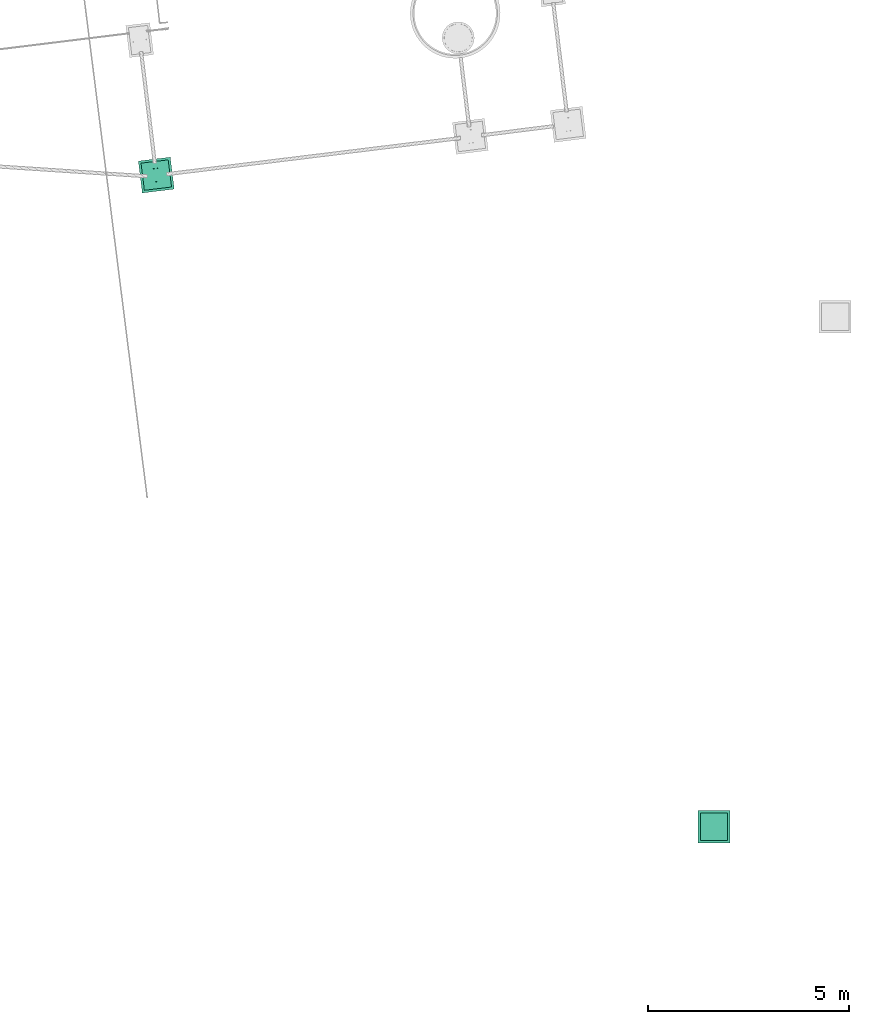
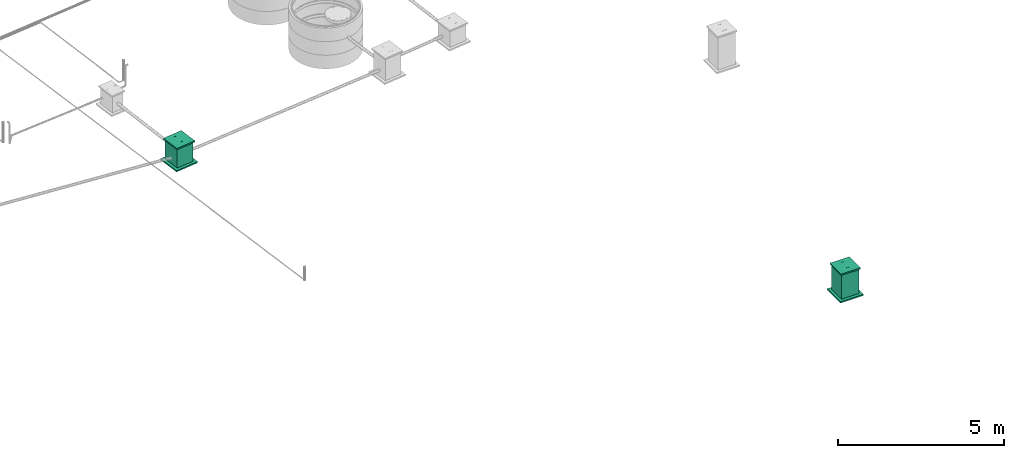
# One storey, part 91 of 97: 2 flow terminals.
"""IFC2X3 building model written with IfcOpenShell, lengths in centimetres."""

from ifc_helpers import new_model, entity, si_unit, converted_unit, derived_unit, direction, frame, origin, place, context, subcontext, project, spatial, faceted_brep, source, transform, mapped, material, material_list, type_object, type_shapes, element, save


model = new_model("IFC2X3")

# Units and contexts
model_context = context("Model", 3, precision=0.001, world=origin(), true_north=direction((6.12303176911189e-17, 1.0)))
body_context = subcontext(model_context, "Body", "Model", "MODEL_VIEW")
ifc_project = project(units=[si_unit("LENGTHUNIT", "METRE", prefix="CENTI"), si_unit("AREAUNIT", "SQUARE_METRE"), si_unit("VOLUMEUNIT", "CUBIC_METRE"), converted_unit("PLANEANGLEUNIT", "DEGREE", entity("IfcRatioMeasure", 0.0174532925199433), si_unit("PLANEANGLEUNIT", "RADIAN"), dimensions=[0, 0, 0, 0, 0, 0, 0]), si_unit("MASSUNIT", "GRAM", prefix="KILO"), derived_unit("MASSDENSITYUNIT", [(si_unit("MASSUNIT", "GRAM", prefix="KILO"), 1), (si_unit("LENGTHUNIT", "METRE"), -3)]), derived_unit("MOMENTOFINERTIAUNIT", [(si_unit("LENGTHUNIT", "METRE"), 4)]), si_unit("TIMEUNIT", "SECOND"), si_unit("FREQUENCYUNIT", "HERTZ"), si_unit("THERMODYNAMICTEMPERATUREUNIT", "DEGREE_CELSIUS"), derived_unit("THERMALTRANSMITTANCEUNIT", [(si_unit("MASSUNIT", "GRAM", prefix="KILO"), 1), (si_unit("THERMODYNAMICTEMPERATUREUNIT", "KELVIN"), -1), (si_unit("TIMEUNIT", "SECOND"), -3)]), derived_unit("VOLUMETRICFLOWRATEUNIT", [(si_unit("LENGTHUNIT", "METRE"), 3), (si_unit("TIMEUNIT", "SECOND"), -1)]), si_unit("ELECTRICCURRENTUNIT", "AMPERE"), si_unit("ELECTRICVOLTAGEUNIT", "VOLT"), si_unit("POWERUNIT", "WATT"), si_unit("FORCEUNIT", "NEWTON", prefix="KILO"), si_unit("ILLUMINANCEUNIT", "LUX"), si_unit("LUMINOUSFLUXUNIT", "LUMEN"), si_unit("LUMINOUSINTENSITYUNIT", "CANDELA"), derived_unit("USERDEFINED", [(si_unit("MASSUNIT", "GRAM", prefix="KILO"), -1), (si_unit("LENGTHUNIT", "METRE"), -2), (si_unit("TIMEUNIT", "SECOND"), 3), (si_unit("LUMINOUSFLUXUNIT", "LUMEN"), 1)]), derived_unit("LINEARVELOCITYUNIT", [(si_unit("LENGTHUNIT", "METRE"), 1), (si_unit("TIMEUNIT", "SECOND"), -1)]), si_unit("PRESSUREUNIT", "PASCAL"), derived_unit("USERDEFINED", [(si_unit("LENGTHUNIT", "METRE"), -2), (si_unit("MASSUNIT", "GRAM", prefix="KILO"), 1), (si_unit("TIMEUNIT", "SECOND"), -2)]), derived_unit("LINEARFORCEUNIT", [(si_unit("MASSUNIT", "GRAM", prefix="KILO"), 1), (si_unit("LENGTHUNIT", "METRE"), 1), (si_unit("TIMEUNIT", "SECOND"), -2), (si_unit("LENGTHUNIT", "METRE"), -1)]), derived_unit("PLANARFORCEUNIT", [(si_unit("MASSUNIT", "GRAM", prefix="KILO"), 1), (si_unit("LENGTHUNIT", "METRE"), 1), (si_unit("TIMEUNIT", "SECOND"), -2), (si_unit("LENGTHUNIT", "METRE"), -2)])], contexts=[model_context])

# Site, building, storey
site_placement = place(None, origin())
site = spatial("IfcSite", under=ifc_project, at=site_placement, Name="Default", CompositionType="ELEMENT")
building_placement = place(site_placement, origin())
building = spatial("IfcBuilding", under=site, at=building_placement, Name="HIDROSSANITÁRIO", CompositionType="ELEMENT")
storey_placement = place(building_placement, frame((0.0, 0.0, -260.0)))
storey = spatial("IfcBuildingStorey", under=building, at=storey_placement, Name="TÉRREO-HID", CompositionType="ELEMENT", Elevation=-260.0)

# Flow terminals
ifc_material_1 = material(Name="<Unnamed>")
ifc_material_2 = material(Name="Concrete, Sand/Cement Screed")
ifc_material_3 = material(Name="Brick, Common, Grey")
ifc_material_list_1 = material_list([ifc_material_1, ifc_material_2, ifc_material_3])
ifc_material_list_2 = material_list([ifc_material_1, ifc_material_2, ifc_material_3])
distribution_element_type_1 = type_object("IfcDistributionElementType", Name="Caixa de Inspeção/Gordura:Alvenaria", material=ifc_material_list_2)
shared_shape_1 = source(origin(), body_context, "Body", "Brep", [
    faceted_brep([(-5.60146522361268, 16.5924553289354, 3.71042168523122), (-5.40613785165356, 16.3971279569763, 3.71042168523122), (-5.60146522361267, 16.2018005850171, 3.71042168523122), (-5.79679259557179, 16.3971279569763, 3.71042168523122), (6.39853477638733, 16.2018005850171, 3.71042168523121), (6.20320740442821, 16.3971279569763, 3.71042168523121), (6.39853477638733, 16.5924553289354, 3.71042168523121), (6.59386214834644, 16.3971279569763, 3.71042168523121), (-5.40613785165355, 16.3971279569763, 5.27042602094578), (-5.57070403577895, 16.2042380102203, 5.71042174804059), (-5.79679259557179, 16.3971279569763, 5.27042593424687), (-5.40613785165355, 16.3971279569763, 7.71042168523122), (-5.60146522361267, 16.2018005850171, 7.71042168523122), (-5.40613785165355, 16.3971279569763, 6.1504173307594), (-5.79679259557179, 16.3971279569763, 7.71042168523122), (-5.60146522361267, 16.5924553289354, 7.71042168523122), (-5.63222641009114, 16.5900179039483, 5.71042169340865), (-5.68947233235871, 16.5044482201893, 7.71042168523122), (-5.25102598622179, 16.2195619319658, 8.35998244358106), (-5.37993713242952, 16.2298951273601, 8.48889359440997), (-4.60146522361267, 16.3971279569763, 8.90574905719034), (-4.60146522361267, 16.2018005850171, 8.71042168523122), (-5.17045469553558, 16.3971279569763, 8.27941115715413), (-4.60146522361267, 16.3971279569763, 8.5150943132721), (-5.44668931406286, 16.3971279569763, 8.55564577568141), (-5.36898819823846, 16.5727768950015, 8.47794465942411), (-5.21737432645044, 16.5627205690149, 8.36172681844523), (-4.60146522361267, 16.5924553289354, 8.71042168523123), (0.518543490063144, 16.3971279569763, 8.90574905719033), (1.73854147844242, 16.2018005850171, 8.71042168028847), (2.95853913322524, 16.3971279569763, 8.90574905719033), (-0.76461087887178, 16.2018577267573, 8.71514602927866), (-2.16146960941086, 16.3971279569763, 8.5150943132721), (0.278526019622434, 16.3971279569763, 8.5150943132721), (0.398534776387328, 16.3971279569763, 8.5150943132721), (-2.16146958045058, 16.3971279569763, 8.90574905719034), (5.39853477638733, 16.2018005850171, 8.71042168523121), (5.39853477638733, 16.3971279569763, 8.90574905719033), (2.95853916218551, 16.3971279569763, 8.5150943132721), (5.39853477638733, 16.3971279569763, 8.51509431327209), (0.398534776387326, 16.3971279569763, 8.90574905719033), (1.56168082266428, 16.5923981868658, 8.70569732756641), (-0.941471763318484, 16.5924553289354, 8.71042168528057), (5.39853477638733, 16.5924553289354, 8.71042168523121), (5.39853477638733, 16.5044482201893, 8.79842879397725), (6.04809553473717, 16.2195619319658, 8.35998244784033), (6.17700668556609, 16.2298951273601, 8.48889359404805), (6.59386214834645, 16.3971279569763, 7.71042168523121), (6.39853477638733, 16.2018005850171, 7.71042168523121), (5.96752424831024, 16.3971279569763, 8.27941115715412), (6.20320740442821, 16.3971279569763, 7.71042168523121), (6.24375886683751, 16.3971279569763, 8.5556457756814), (6.16605775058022, 16.5727768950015, 8.477944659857), (6.04983990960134, 16.5627205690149, 8.32633078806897), (6.39853477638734, 16.5924553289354, 7.71042168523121), (6.20320740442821, 16.3971279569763, 6.15041734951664), (6.36777358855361, 16.2042380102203, 5.71042162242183), (6.59386214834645, 16.3971279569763, 6.15041743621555), (6.20320740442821, 16.3971279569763, 5.27042603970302), (6.4292959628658, 16.5900179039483, 5.71042167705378)], [[[0, 1, 2, 3]], [[4, 5, 6, 7]], [[8, 9, 2]], [[2, 10, 3]], [[10, 2, 9]], [[11, 12, 9]], [[8, 2, 1]], [[9, 8, 13, 11]], [[9, 12, 14]], [[14, 10, 9]], [[13, 15, 11]], [[0, 10, 16]], [[14, 16, 10]], [[10, 0, 3]], [[16, 13, 8, 1]], [[13, 16, 15]], [[1, 0, 16]], [[16, 14, 17, 15]], [[12, 18, 19]], [[20, 19, 21]], [[14, 12, 19]], [[11, 22, 18]], [[23, 21, 18]], [[14, 19, 24]], [[24, 19, 20]], [[23, 18, 22]], [[19, 18, 21]], [[11, 18, 12]], [[17, 14, 24]], [[25, 26, 15]], [[25, 15, 17]], [[11, 15, 26]], [[25, 27, 26]], [[20, 25, 24]], [[20, 27, 25]], [[26, 22, 11]], [[22, 26, 23]], [[17, 24, 25]], [[23, 26, 27]], [[28, 29, 30]], [[31, 32, 33, 34]], [[35, 20, 21]], [[36, 37, 30]], [[29, 28, 31]], [[38, 39, 36]], [[21, 23, 32]], [[34, 29, 31]], [[32, 31, 21]], [[30, 29, 36]], [[34, 38, 29]], [[36, 29, 38]], [[31, 28, 40, 35]], [[31, 35, 21]], [[40, 41, 42]], [[43, 39, 38]], [[27, 42, 33, 32, 23]], [[27, 20, 35, 40, 42]], [[30, 37, 44, 43]], [[38, 41, 43]], [[30, 43, 41]], [[42, 41, 33]], [[41, 40, 28, 30]], [[41, 38, 34, 33]], [[36, 45, 46]], [[47, 46, 48]], [[37, 36, 46]], [[39, 49, 45]], [[50, 48, 45]], [[37, 46, 51]], [[51, 46, 47]], [[50, 45, 49]], [[46, 45, 48]], [[39, 45, 36]], [[44, 37, 51]], [[52, 53, 43]], [[52, 43, 44]], [[39, 43, 53]], [[52, 54, 53]], [[47, 52, 51]], [[47, 54, 52]], [[53, 49, 39]], [[49, 53, 50]], [[44, 51, 52]], [[50, 53, 54]], [[55, 56, 48]], [[48, 57, 47]], [[57, 48, 56]], [[5, 4, 56]], [[55, 48, 50]], [[56, 55, 58, 5]], [[56, 4, 7]], [[7, 57, 56]], [[58, 6, 5]], [[54, 57, 59]], [[7, 59, 57]], [[57, 54, 47]], [[59, 58, 55, 50]], [[58, 59, 6]], [[50, 54, 59]], [[7, 6, 59]]]),
    faceted_brep([(-5.60146522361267, -16.5924553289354, 3.71042168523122), (-5.79679259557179, -16.3971279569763, 3.71042168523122), (-5.60146522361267, -16.2018005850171, 3.71042168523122), (-5.40613785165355, -16.3971279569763, 3.71042168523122), (6.39853477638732, -16.2018005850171, 3.71042168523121), (6.59386214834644, -16.3971279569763, 3.71042168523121), (6.39853477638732, -16.5924553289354, 3.71042168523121), (6.20320740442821, -16.3971279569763, 3.71042168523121), (-5.79679259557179, -16.3971279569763, 6.15041737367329), (-5.60146522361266, -16.5924553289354, 7.71042168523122), (-5.68947233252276, -16.5044482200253, 7.71042168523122), (-5.79679259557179, -16.3971279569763, 7.71042168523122), (-5.40613785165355, -16.3971279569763, 5.27042602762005), (-5.5707040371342, -16.5900179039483, 5.71042169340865), (-5.40613785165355, -16.3971279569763, 7.71042168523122), (-5.79679259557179, -16.3971279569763, 5.27042602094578), (-5.51345811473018, -16.5044482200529, 7.71042168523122), (-5.63222641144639, -16.2042380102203, 5.71042174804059), (-5.60146522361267, -16.2018005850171, 7.71042168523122), (-5.37028554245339, -16.5521831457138, 8.52319636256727), (-5.44668931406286, -16.3971279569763, 8.55564577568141), (-5.17045469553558, -16.3971279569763, 8.27941115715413), (-4.60146522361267, -16.3971279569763, 8.5150943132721), (-4.60146522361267, -16.5044482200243, 8.62241457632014), (-4.60146522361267, -16.5924553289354, 8.71042168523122), (-4.60146522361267, -16.5044482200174, 8.79842879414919), (-5.27261908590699, -16.5857215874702, 8.3815755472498), (-4.60146522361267, -16.3971279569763, 8.90574905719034), (-5.23720687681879, -16.2298951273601, 8.34616333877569), (-4.60146522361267, -16.2018005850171, 8.71042168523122), (-5.36611802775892, -16.2195619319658, 8.4750744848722), (0.398534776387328, -16.3971279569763, 8.5150943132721), (1.56168082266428, -16.5923981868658, 8.71514604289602), (-0.941471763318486, -16.5924553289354, 8.71042168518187), (2.95853912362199, -16.3971279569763, 8.90574905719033), (5.39853477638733, -16.5924553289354, 8.71042168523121), (5.39853477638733, -16.5044482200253, 8.7984287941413), (5.39853477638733, -16.3971279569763, 8.90574905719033), (0.278526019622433, -16.3971279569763, 8.90574905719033), (-2.16146957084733, -16.3971279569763, 8.90574905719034), (-2.16146960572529, -16.3971279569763, 8.5150943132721), (2.95853915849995, -16.3971279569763, 8.51509431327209), (5.39853477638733, -16.3971279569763, 8.51509431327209), (5.39853477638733, -16.5044482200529, 8.62241457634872), (0.518543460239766, -16.3971279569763, 8.5150943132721), (0.398534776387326, -16.3971279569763, 8.90574905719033), (1.73854147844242, -16.2018005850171, 8.71042169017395), (-0.76461087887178, -16.2018577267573, 8.70569734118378), (5.39853477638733, -16.2018005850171, 8.71042168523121), (6.21130945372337, -16.5521831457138, 8.47924200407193), (6.24375886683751, -16.3971279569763, 8.5556457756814), (5.96752424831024, -16.3971279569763, 8.27941115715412), (6.20320740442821, -16.3971279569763, 7.71042168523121), (6.31052766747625, -16.5044482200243, 7.71042168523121), (6.39853477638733, -16.5924553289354, 7.71042168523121), (6.4865418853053, -16.5044482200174, 7.71042168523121), (6.06968863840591, -16.5857215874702, 8.38157554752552), (6.59386214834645, -16.3971279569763, 7.71042168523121), (6.03427642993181, -16.2298951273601, 8.34616333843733), (6.39853477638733, -16.2018005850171, 7.71042168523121), (6.16318757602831, -16.2195619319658, 8.47507448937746), (6.59386214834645, -16.3971279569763, 5.27042599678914), (6.20320740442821, -16.3971279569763, 6.15041726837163), (6.36777358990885, -16.5900179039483, 5.71042167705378), (6.59386214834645, -16.3971279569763, 6.15041734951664), (6.42929596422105, -16.2042380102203, 5.71042162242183)], [[[0, 1, 2, 3]], [[4, 5, 6, 7]], [[8, 9, 10, 11]], [[0, 12, 13]], [[14, 13, 12]], [[12, 0, 3]], [[13, 8, 15, 1]], [[8, 13, 9]], [[1, 0, 13]], [[13, 14, 16, 9]], [[15, 17, 2]], [[2, 12, 3]], [[12, 2, 17]], [[11, 18, 17]], [[15, 2, 1]], [[17, 15, 8, 11]], [[17, 18, 14]], [[14, 12, 17]], [[19, 10, 9]], [[10, 19, 20]], [[21, 22, 23]], [[24, 25, 19]], [[24, 26, 23]], [[24, 19, 26]], [[16, 26, 9]], [[20, 25, 27]], [[20, 11, 10]], [[23, 26, 21]], [[19, 25, 20]], [[14, 21, 16]], [[26, 19, 9]], [[26, 16, 21]], [[22, 28, 29]], [[18, 30, 28]], [[14, 28, 21]], [[14, 18, 28]], [[11, 20, 30]], [[27, 30, 20]], [[27, 29, 30]], [[11, 30, 18]], [[21, 28, 22]], [[28, 30, 29]], [[31, 32, 33]], [[34, 35, 36, 37]], [[24, 33, 38, 39, 27, 25]], [[40, 31, 33, 24, 23, 22]], [[41, 42, 43, 35]], [[34, 32, 35]], [[41, 35, 32]], [[33, 32, 38]], [[32, 31, 44, 41]], [[32, 34, 45, 38]], [[44, 46, 41]], [[47, 39, 38, 45]], [[40, 22, 29]], [[48, 42, 41]], [[46, 44, 47]], [[34, 37, 48]], [[29, 27, 39]], [[45, 46, 47]], [[39, 47, 29]], [[41, 46, 48]], [[45, 34, 46]], [[48, 46, 34]], [[47, 44, 31, 40]], [[47, 40, 29]], [[49, 36, 35]], [[36, 49, 50]], [[51, 52, 53]], [[54, 55, 49]], [[54, 56, 53]], [[54, 49, 56]], [[43, 56, 35]], [[50, 55, 57]], [[50, 37, 36]], [[53, 56, 51]], [[49, 55, 50]], [[42, 51, 43]], [[56, 49, 35]], [[56, 43, 51]], [[52, 58, 59]], [[48, 60, 58]], [[42, 58, 51]], [[42, 48, 58]], [[37, 50, 60]], [[57, 60, 50]], [[57, 59, 60]], [[37, 60, 48]], [[51, 58, 52]], [[58, 60, 59]], [[61, 6, 5]], [[54, 62, 63]], [[7, 63, 62]], [[62, 54, 53, 52]], [[63, 61, 64, 57]], [[61, 63, 6]], [[63, 57, 55, 54]], [[7, 6, 63]], [[64, 65, 59]], [[59, 62, 52]], [[62, 59, 65]], [[5, 4, 65]], [[64, 59, 57]], [[65, 64, 61, 5]], [[65, 4, 7]], [[7, 62, 65]]]),
    faceted_brep([(34.0, 34.0, 6.0), (-34.0, 34.0, 6.0), (-34.0, -34.0, 6.0), (34.0, -34.0, 6.0), (34.0, 34.0, 1.0), (34.0, -34.0, 1.0), (-34.0, -34.0, 1.0), (-34.0, 34.0, 1.0)], [[[0, 1, 2, 3]], [[4, 5, 6, 7]], [[1, 0, 4, 7]], [[2, 1, 7, 6]], [[3, 2, 6, 5]], [[0, 3, 5, 4]]]),
    faceted_brep([(40.0, 40.0, -70.0), (-40.0, 40.0, -70.0), (-40.0, -40.0, -70.0), (40.0, -40.0, -70.0), (40.0, 40.0, -75.0), (40.0, -40.0, -75.0), (-40.0, -40.0, -75.0), (-40.0, 40.0, -75.0)], [[[0, 1, 2, 3]], [[4, 5, 6, 7]], [[1, 0, 4, 7]], [[2, 1, 7, 6]], [[3, 2, 6, 5]], [[0, 3, 5, 4]]]),
    faceted_brep([(25.0, 25.0, 1.0), (25.0, -25.0, 1.0), (-25.0, -25.0, 1.0), (-25.0, 25.0, 1.0), (30.0, 30.0, 1.0), (-30.0, 30.0, 1.0), (-30.0, -30.0, 1.0), (30.0, -30.0, 1.0), (25.0, 25.0, -70.0), (-25.0, 25.0, -70.0), (-25.0, -25.0, -70.0), (25.0, -25.0, -70.0), (30.0, 30.0, -70.0), (30.0, -30.0, -70.0), (-30.0, -30.0, -70.0), (-30.0, 30.0, -70.0)], [[[0, 1, 2, 3], [4, 5, 6, 7]], [[8, 9, 10, 11], [12, 13, 14, 15]], [[1, 0, 8, 11]], [[2, 1, 11, 10]], [[3, 2, 10, 9]], [[0, 3, 9, 8]], [[5, 4, 12, 15]], [[6, 5, 15, 14]], [[7, 6, 14, 13]], [[4, 7, 13, 12]]], outer=[[False, True], [False, True], [True], [True], [True], [True], [True], [True], [True], [True]]),
])
type_shapes(distribution_element_type_1, [shared_shape_1])
flow_terminal_1_placement = place(storey_placement, frame((-233.607716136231, 2704.50605130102, 0.0), z_axis=(0.0, 0.0, 1.0), x_axis=(0.992511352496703, 0.122152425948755, 0.0)))
element("IfcFlowTerminal", 1, at=flow_terminal_1_placement, inside=storey, type_object=distribution_element_type_1, material=ifc_material_list_1, Name="Caixa de Inspeção/Gordura:Alvenaria", ObjectType="Caixa de Inspeção/Gordura:Alvenaria", context=body_context, shape_type="MappedRepresentation", body=[
    mapped(shared_shape_1, transform((0.0, 0.0, 0.0), scale=1.0)),
])
ifc_material_list_3 = material_list([ifc_material_1, ifc_material_2, ifc_material_3])
ifc_material_list_4 = material_list([ifc_material_1, ifc_material_2, ifc_material_3])
distribution_element_type_2 = type_object("IfcDistributionElementType", Name="Caixa de Inspeção/Gordura:Alvenaria", material=ifc_material_list_4)
shared_shape_2 = source(origin(), body_context, "Body", "Brep", [
    faceted_brep([(-5.60146522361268, 16.5924553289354, 3.71042168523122), (-5.40613785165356, 16.3971279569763, 3.71042168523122), (-5.60146522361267, 16.2018005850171, 3.71042168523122), (-5.79679259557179, 16.3971279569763, 3.71042168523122), (6.39853477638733, 16.2018005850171, 3.71042168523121), (6.20320740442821, 16.3971279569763, 3.71042168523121), (6.39853477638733, 16.5924553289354, 3.71042168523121), (6.59386214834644, 16.3971279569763, 3.71042168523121), (-5.40613785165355, 16.3971279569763, 5.27042602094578), (-5.57070403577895, 16.2042380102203, 5.71042174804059), (-5.79679259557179, 16.3971279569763, 5.27042593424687), (-5.40613785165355, 16.3971279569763, 7.71042168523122), (-5.60146522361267, 16.2018005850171, 7.71042168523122), (-5.40613785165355, 16.3971279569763, 6.1504173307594), (-5.79679259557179, 16.3971279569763, 7.71042168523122), (-5.60146522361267, 16.5924553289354, 7.71042168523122), (-5.63222641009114, 16.5900179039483, 5.71042169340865), (-5.68947233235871, 16.5044482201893, 7.71042168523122), (-5.25102598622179, 16.2195619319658, 8.35998244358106), (-5.37993713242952, 16.2298951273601, 8.48889359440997), (-4.60146522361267, 16.3971279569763, 8.90574905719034), (-4.60146522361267, 16.2018005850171, 8.71042168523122), (-5.17045469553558, 16.3971279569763, 8.27941115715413), (-4.60146522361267, 16.3971279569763, 8.5150943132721), (-5.44668931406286, 16.3971279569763, 8.55564577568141), (-5.36898819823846, 16.5727768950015, 8.47794465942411), (-5.21737432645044, 16.5627205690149, 8.36172681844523), (-4.60146522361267, 16.5924553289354, 8.71042168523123), (0.518543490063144, 16.3971279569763, 8.90574905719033), (1.73854147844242, 16.2018005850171, 8.71042168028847), (2.95853913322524, 16.3971279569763, 8.90574905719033), (-0.76461087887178, 16.2018577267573, 8.71514602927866), (-2.16146960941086, 16.3971279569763, 8.5150943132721), (0.278526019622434, 16.3971279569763, 8.5150943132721), (0.398534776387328, 16.3971279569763, 8.5150943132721), (-2.16146958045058, 16.3971279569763, 8.90574905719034), (5.39853477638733, 16.2018005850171, 8.71042168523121), (5.39853477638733, 16.3971279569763, 8.90574905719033), (2.95853916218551, 16.3971279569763, 8.5150943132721), (5.39853477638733, 16.3971279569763, 8.51509431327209), (0.398534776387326, 16.3971279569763, 8.90574905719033), (1.56168082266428, 16.5923981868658, 8.70569732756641), (-0.941471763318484, 16.5924553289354, 8.71042168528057), (5.39853477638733, 16.5924553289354, 8.71042168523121), (5.39853477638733, 16.5044482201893, 8.79842879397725), (6.04809553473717, 16.2195619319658, 8.35998244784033), (6.17700668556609, 16.2298951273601, 8.48889359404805), (6.59386214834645, 16.3971279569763, 7.71042168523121), (6.39853477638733, 16.2018005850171, 7.71042168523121), (5.96752424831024, 16.3971279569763, 8.27941115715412), (6.20320740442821, 16.3971279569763, 7.71042168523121), (6.24375886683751, 16.3971279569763, 8.5556457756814), (6.16605775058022, 16.5727768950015, 8.477944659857), (6.04983990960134, 16.5627205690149, 8.32633078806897), (6.39853477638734, 16.5924553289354, 7.71042168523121), (6.20320740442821, 16.3971279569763, 6.15041734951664), (6.36777358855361, 16.2042380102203, 5.71042162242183), (6.59386214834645, 16.3971279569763, 6.15041743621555), (6.20320740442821, 16.3971279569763, 5.27042603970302), (6.4292959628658, 16.5900179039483, 5.71042167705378)], [[[0, 1, 2, 3]], [[4, 5, 6, 7]], [[8, 9, 2]], [[2, 10, 3]], [[10, 2, 9]], [[11, 12, 9]], [[8, 2, 1]], [[9, 8, 13, 11]], [[9, 12, 14]], [[14, 10, 9]], [[13, 15, 11]], [[0, 10, 16]], [[14, 16, 10]], [[10, 0, 3]], [[16, 13, 8, 1]], [[13, 16, 15]], [[1, 0, 16]], [[16, 14, 17, 15]], [[12, 18, 19]], [[20, 19, 21]], [[14, 12, 19]], [[11, 22, 18]], [[23, 21, 18]], [[14, 19, 24]], [[24, 19, 20]], [[23, 18, 22]], [[19, 18, 21]], [[11, 18, 12]], [[17, 14, 24]], [[25, 26, 15]], [[25, 15, 17]], [[11, 15, 26]], [[25, 27, 26]], [[20, 25, 24]], [[20, 27, 25]], [[26, 22, 11]], [[22, 26, 23]], [[17, 24, 25]], [[23, 26, 27]], [[28, 29, 30]], [[31, 32, 33, 34]], [[35, 20, 21]], [[36, 37, 30]], [[29, 28, 31]], [[38, 39, 36]], [[21, 23, 32]], [[34, 29, 31]], [[32, 31, 21]], [[30, 29, 36]], [[34, 38, 29]], [[36, 29, 38]], [[31, 28, 40, 35]], [[31, 35, 21]], [[40, 41, 42]], [[43, 39, 38]], [[27, 42, 33, 32, 23]], [[27, 20, 35, 40, 42]], [[30, 37, 44, 43]], [[38, 41, 43]], [[30, 43, 41]], [[42, 41, 33]], [[41, 40, 28, 30]], [[41, 38, 34, 33]], [[36, 45, 46]], [[47, 46, 48]], [[37, 36, 46]], [[39, 49, 45]], [[50, 48, 45]], [[37, 46, 51]], [[51, 46, 47]], [[50, 45, 49]], [[46, 45, 48]], [[39, 45, 36]], [[44, 37, 51]], [[52, 53, 43]], [[52, 43, 44]], [[39, 43, 53]], [[52, 54, 53]], [[47, 52, 51]], [[47, 54, 52]], [[53, 49, 39]], [[49, 53, 50]], [[44, 51, 52]], [[50, 53, 54]], [[55, 56, 48]], [[48, 57, 47]], [[57, 48, 56]], [[5, 4, 56]], [[55, 48, 50]], [[56, 55, 58, 5]], [[56, 4, 7]], [[7, 57, 56]], [[58, 6, 5]], [[54, 57, 59]], [[7, 59, 57]], [[57, 54, 47]], [[59, 58, 55, 50]], [[58, 59, 6]], [[50, 54, 59]], [[7, 6, 59]]]),
    faceted_brep([(-5.60146522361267, -16.5924553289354, 3.71042168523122), (-5.79679259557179, -16.3971279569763, 3.71042168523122), (-5.60146522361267, -16.2018005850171, 3.71042168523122), (-5.40613785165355, -16.3971279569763, 3.71042168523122), (6.39853477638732, -16.2018005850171, 3.71042168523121), (6.59386214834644, -16.3971279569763, 3.71042168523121), (6.39853477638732, -16.5924553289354, 3.71042168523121), (6.20320740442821, -16.3971279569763, 3.71042168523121), (-5.79679259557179, -16.3971279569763, 6.15041737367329), (-5.60146522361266, -16.5924553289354, 7.71042168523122), (-5.68947233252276, -16.5044482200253, 7.71042168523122), (-5.79679259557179, -16.3971279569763, 7.71042168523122), (-5.40613785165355, -16.3971279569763, 5.27042602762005), (-5.5707040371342, -16.5900179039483, 5.71042169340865), (-5.40613785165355, -16.3971279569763, 7.71042168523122), (-5.79679259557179, -16.3971279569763, 5.27042602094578), (-5.51345811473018, -16.5044482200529, 7.71042168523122), (-5.63222641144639, -16.2042380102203, 5.71042174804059), (-5.60146522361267, -16.2018005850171, 7.71042168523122), (-5.37028554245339, -16.5521831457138, 8.52319636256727), (-5.44668931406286, -16.3971279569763, 8.55564577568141), (-5.17045469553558, -16.3971279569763, 8.27941115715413), (-4.60146522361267, -16.3971279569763, 8.5150943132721), (-4.60146522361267, -16.5044482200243, 8.62241457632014), (-4.60146522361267, -16.5924553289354, 8.71042168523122), (-4.60146522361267, -16.5044482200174, 8.79842879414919), (-5.27261908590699, -16.5857215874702, 8.3815755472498), (-4.60146522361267, -16.3971279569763, 8.90574905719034), (-5.23720687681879, -16.2298951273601, 8.34616333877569), (-4.60146522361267, -16.2018005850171, 8.71042168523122), (-5.36611802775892, -16.2195619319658, 8.4750744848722), (0.398534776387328, -16.3971279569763, 8.5150943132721), (1.56168082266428, -16.5923981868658, 8.71514604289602), (-0.941471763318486, -16.5924553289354, 8.71042168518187), (2.95853912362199, -16.3971279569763, 8.90574905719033), (5.39853477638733, -16.5924553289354, 8.71042168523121), (5.39853477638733, -16.5044482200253, 8.7984287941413), (5.39853477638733, -16.3971279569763, 8.90574905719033), (0.278526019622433, -16.3971279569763, 8.90574905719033), (-2.16146957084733, -16.3971279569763, 8.90574905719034), (-2.16146960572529, -16.3971279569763, 8.5150943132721), (2.95853915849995, -16.3971279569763, 8.51509431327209), (5.39853477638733, -16.3971279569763, 8.51509431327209), (5.39853477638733, -16.5044482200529, 8.62241457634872), (0.518543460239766, -16.3971279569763, 8.5150943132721), (0.398534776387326, -16.3971279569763, 8.90574905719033), (1.73854147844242, -16.2018005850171, 8.71042169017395), (-0.76461087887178, -16.2018577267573, 8.70569734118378), (5.39853477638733, -16.2018005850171, 8.71042168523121), (6.21130945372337, -16.5521831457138, 8.47924200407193), (6.24375886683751, -16.3971279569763, 8.5556457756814), (5.96752424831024, -16.3971279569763, 8.27941115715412), (6.20320740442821, -16.3971279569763, 7.71042168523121), (6.31052766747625, -16.5044482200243, 7.71042168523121), (6.39853477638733, -16.5924553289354, 7.71042168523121), (6.4865418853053, -16.5044482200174, 7.71042168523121), (6.06968863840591, -16.5857215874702, 8.38157554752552), (6.59386214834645, -16.3971279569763, 7.71042168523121), (6.03427642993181, -16.2298951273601, 8.34616333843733), (6.39853477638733, -16.2018005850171, 7.71042168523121), (6.16318757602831, -16.2195619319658, 8.47507448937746), (6.59386214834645, -16.3971279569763, 5.27042599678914), (6.20320740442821, -16.3971279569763, 6.15041726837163), (6.36777358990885, -16.5900179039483, 5.71042167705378), (6.59386214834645, -16.3971279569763, 6.15041734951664), (6.42929596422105, -16.2042380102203, 5.71042162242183)], [[[0, 1, 2, 3]], [[4, 5, 6, 7]], [[8, 9, 10, 11]], [[0, 12, 13]], [[14, 13, 12]], [[12, 0, 3]], [[13, 8, 15, 1]], [[8, 13, 9]], [[1, 0, 13]], [[13, 14, 16, 9]], [[15, 17, 2]], [[2, 12, 3]], [[12, 2, 17]], [[11, 18, 17]], [[15, 2, 1]], [[17, 15, 8, 11]], [[17, 18, 14]], [[14, 12, 17]], [[19, 10, 9]], [[10, 19, 20]], [[21, 22, 23]], [[24, 25, 19]], [[24, 26, 23]], [[24, 19, 26]], [[16, 26, 9]], [[20, 25, 27]], [[20, 11, 10]], [[23, 26, 21]], [[19, 25, 20]], [[14, 21, 16]], [[26, 19, 9]], [[26, 16, 21]], [[22, 28, 29]], [[18, 30, 28]], [[14, 28, 21]], [[14, 18, 28]], [[11, 20, 30]], [[27, 30, 20]], [[27, 29, 30]], [[11, 30, 18]], [[21, 28, 22]], [[28, 30, 29]], [[31, 32, 33]], [[34, 35, 36, 37]], [[24, 33, 38, 39, 27, 25]], [[40, 31, 33, 24, 23, 22]], [[41, 42, 43, 35]], [[34, 32, 35]], [[41, 35, 32]], [[33, 32, 38]], [[32, 31, 44, 41]], [[32, 34, 45, 38]], [[44, 46, 41]], [[47, 39, 38, 45]], [[40, 22, 29]], [[48, 42, 41]], [[46, 44, 47]], [[34, 37, 48]], [[29, 27, 39]], [[45, 46, 47]], [[39, 47, 29]], [[41, 46, 48]], [[45, 34, 46]], [[48, 46, 34]], [[47, 44, 31, 40]], [[47, 40, 29]], [[49, 36, 35]], [[36, 49, 50]], [[51, 52, 53]], [[54, 55, 49]], [[54, 56, 53]], [[54, 49, 56]], [[43, 56, 35]], [[50, 55, 57]], [[50, 37, 36]], [[53, 56, 51]], [[49, 55, 50]], [[42, 51, 43]], [[56, 49, 35]], [[56, 43, 51]], [[52, 58, 59]], [[48, 60, 58]], [[42, 58, 51]], [[42, 48, 58]], [[37, 50, 60]], [[57, 60, 50]], [[57, 59, 60]], [[37, 60, 48]], [[51, 58, 52]], [[58, 60, 59]], [[61, 6, 5]], [[54, 62, 63]], [[7, 63, 62]], [[62, 54, 53, 52]], [[63, 61, 64, 57]], [[61, 63, 6]], [[63, 57, 55, 54]], [[7, 6, 63]], [[64, 65, 59]], [[59, 62, 52]], [[62, 59, 65]], [[5, 4, 65]], [[64, 59, 57]], [[65, 64, 61, 5]], [[65, 4, 7]], [[7, 62, 65]]]),
    faceted_brep([(34.0, 34.0, 6.0), (-34.0, 34.0, 6.0), (-34.0, -34.0, 6.0), (34.0, -34.0, 6.0), (34.0, 34.0, 1.0), (34.0, -34.0, 1.0), (-34.0, -34.0, 1.0), (-34.0, 34.0, 1.0)], [[[0, 1, 2, 3]], [[4, 5, 6, 7]], [[1, 0, 4, 7]], [[2, 1, 7, 6]], [[3, 2, 6, 5]], [[0, 3, 5, 4]]]),
    faceted_brep([(40.0, 40.0, -90.0), (-40.0, 40.0, -90.0), (-40.0, -40.0, -90.0), (40.0, -40.0, -90.0), (40.0, 40.0, -95.0), (40.0, -40.0, -95.0), (-40.0, -40.0, -95.0), (-40.0, 40.0, -95.0)], [[[0, 1, 2, 3]], [[4, 5, 6, 7]], [[1, 0, 4, 7]], [[2, 1, 7, 6]], [[3, 2, 6, 5]], [[0, 3, 5, 4]]]),
    faceted_brep([(25.0, 25.0, 1.0), (25.0, -25.0, 1.0), (-25.0, -25.0, 1.0), (-25.0, 25.0, 1.0), (30.0, 30.0, 1.0), (-30.0, 30.0, 1.0), (-30.0, -30.0, 1.0), (30.0, -30.0, 1.0), (25.0, 25.0, -90.0), (-25.0, 25.0, -90.0), (-25.0, -25.0, -90.0), (25.0, -25.0, -90.0), (30.0, 30.0, -90.0), (30.0, -30.0, -90.0), (-30.0, -30.0, -90.0), (-30.0, 30.0, -90.0)], [[[0, 1, 2, 3], [4, 5, 6, 7]], [[8, 9, 10, 11], [12, 13, 14, 15]], [[1, 0, 8, 11]], [[2, 1, 11, 10]], [[3, 2, 10, 9]], [[0, 3, 9, 8]], [[5, 4, 12, 15]], [[6, 5, 15, 14]], [[7, 6, 14, 13]], [[4, 7, 13, 12]]], outer=[[False, True], [False, True], [True], [True], [True], [True], [True], [True], [True], [True]]),
])
type_shapes(distribution_element_type_2, [shared_shape_2])
flow_terminal_2_placement = place(storey_placement, frame((1152.41675904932, 1084.90877518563, 33.0)))
element("IfcFlowTerminal", 2, at=flow_terminal_2_placement, inside=storey, type_object=distribution_element_type_2, material=ifc_material_list_3, Name="Caixa de Inspeção/Gordura:Alvenaria", ObjectType="Caixa de Inspeção/Gordura:Alvenaria", context=body_context, shape_type="MappedRepresentation", body=[
    mapped(shared_shape_2, transform((0.0, 0.0, 0.0), scale=1.0)),
])

save(model, "model.ifc")
